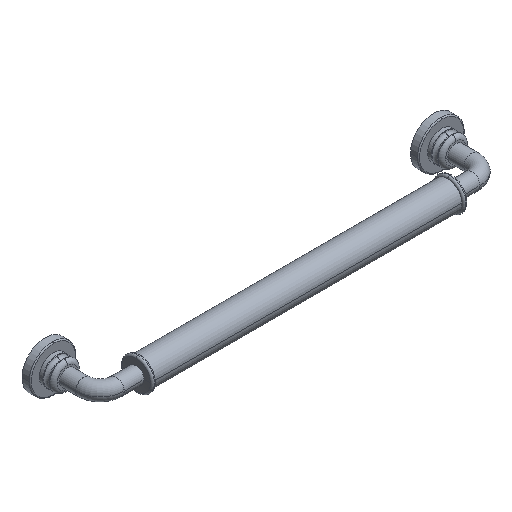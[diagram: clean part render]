
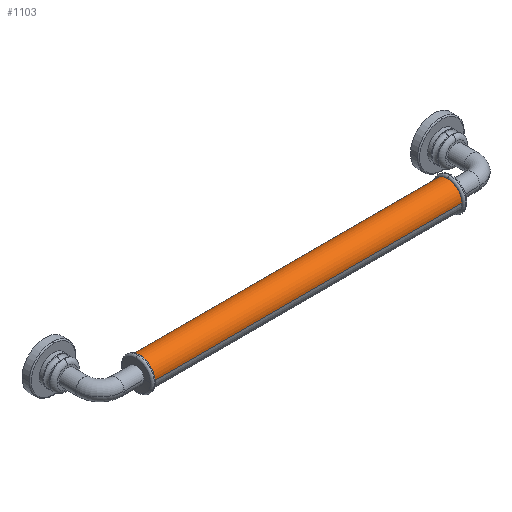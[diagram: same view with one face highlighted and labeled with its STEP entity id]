
A CAD part, isometric view. The second image highlights one B-rep face of the part: STEP entity #1103.
In plain terms, the highlighted cylindrical face has radius 7 mm (diameter 14 mm), a partial arc.
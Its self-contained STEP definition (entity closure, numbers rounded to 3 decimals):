
#519 = VERTEX_POINT( '', #1472 );
#703 = EDGE_CURVE( '', #1307, #867, #1674, .T. );
#867 = VERTEX_POINT( '', #1862 );
#1061 = VERTEX_POINT( '', #2071 );
#1103 = ADVANCED_FACE( '', ( #2120 ), #2121, .T. );
#1195 = EDGE_CURVE( '', #1061, #867, #2220, .T. );
#1245 = EDGE_CURVE( '', #519, #1061, #2272, .T. );
#1307 = VERTEX_POINT( '', #2341 );
#1365 = EDGE_CURVE( '', #1307, #519, #2404, .T. );
#1472 = CARTESIAN_POINT( '', ( 172., -34., 0. ) );
#1674 = CIRCLE( '', #2773, 7. );
#1862 = CARTESIAN_POINT( '', ( 20., -20., 0. ) );
#2071 = CARTESIAN_POINT( '', ( 172., -20., 0. ) );
#2120 = FACE_OUTER_BOUND( '', #3369, .T. );
#2121 = CYLINDRICAL_SURFACE( '', #3370, 7. );
#2220 = LINE( '', #3506, #3507 );
#2272 = CIRCLE( '', #3576, 7. );
#2341 = CARTESIAN_POINT( '', ( 20., -34., 0. ) );
#2404 = LINE( '', #3781, #3782 );
#2773 = AXIS2_PLACEMENT_3D( '', #4148, #4149, #4150 );
#3369 = EDGE_LOOP( '', ( #4785, #4786, #4787, #4788 ) );
#3370 = AXIS2_PLACEMENT_3D( '', #4789, #4790, #4791 );
#3506 = CARTESIAN_POINT( '', ( 96., -20., 0. ) );
#3507 = VECTOR( '', #4924, 1. );
#3576 = AXIS2_PLACEMENT_3D( '', #4985, #4986, #4987 );
#3781 = CARTESIAN_POINT( '', ( 96., -34., 0. ) );
#3782 = VECTOR( '', #5167, 1. );
#4148 = CARTESIAN_POINT( '', ( 20., -27., 0. ) );
#4149 = DIRECTION( '', ( -1., 0., 0. ) );
#4150 = DIRECTION( '', ( 0., 1., 0. ) );
#4785 = ORIENTED_EDGE( '', *, *, #1195, .T. );
#4786 = ORIENTED_EDGE( '', *, *, #703, .F. );
#4787 = ORIENTED_EDGE( '', *, *, #1365, .T. );
#4788 = ORIENTED_EDGE( '', *, *, #1245, .T. );
#4789 = CARTESIAN_POINT( '', ( 96., -27., 0. ) );
#4790 = DIRECTION( '', ( 1., 0., 0. ) );
#4791 = DIRECTION( '', ( 0., 1., 0. ) );
#4924 = DIRECTION( '', ( -1., 0., 0. ) );
#4985 = CARTESIAN_POINT( '', ( 172., -27., 0. ) );
#4986 = DIRECTION( '', ( -1., 0., 0. ) );
#4987 = DIRECTION( '', ( 0., 1., 0. ) );
#5167 = DIRECTION( '', ( 1., 0., 0. ) );
